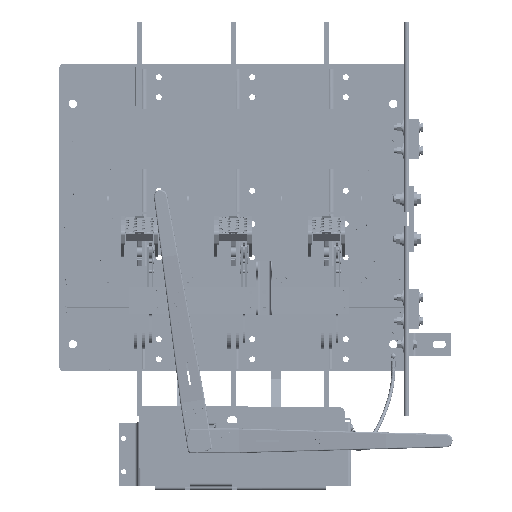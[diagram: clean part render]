
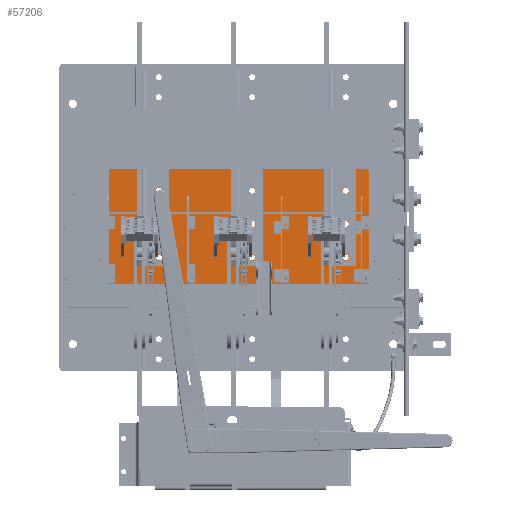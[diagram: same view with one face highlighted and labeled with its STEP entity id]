
A CAD part, top view. The second image highlights one B-rep face of the part: STEP entity #57206.
In plain terms, the highlighted planar face has unit normal (0, 0, 1).
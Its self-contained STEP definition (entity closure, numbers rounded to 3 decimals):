
#2608=FACE_BOUND('',#9327,.T.);
#2609=FACE_BOUND('',#9328,.T.);
#2610=FACE_BOUND('',#9329,.T.);
#2611=FACE_BOUND('',#9330,.T.);
#2612=FACE_BOUND('',#9331,.T.);
#2613=FACE_BOUND('',#9332,.T.);
#2614=FACE_BOUND('',#9333,.T.);
#2615=FACE_BOUND('',#9334,.T.);
#2616=FACE_BOUND('',#9335,.T.);
#2617=FACE_BOUND('',#9336,.T.);
#2618=FACE_BOUND('',#9337,.T.);
#2619=FACE_BOUND('',#9338,.T.);
#2620=FACE_BOUND('',#9339,.T.);
#2621=FACE_BOUND('',#9340,.T.);
#2622=FACE_BOUND('',#9341,.T.);
#2623=FACE_BOUND('',#9342,.T.);
#2624=FACE_BOUND('',#9343,.T.);
#3870=PLANE('',#62545);
#5945=FACE_OUTER_BOUND('',#9326,.T.);
#9326=EDGE_LOOP('',(#43474,#43475,#43476,#43477,#43478,#43479));
#9327=EDGE_LOOP('',(#43480));
#9328=EDGE_LOOP('',(#43481));
#9329=EDGE_LOOP('',(#43482));
#9330=EDGE_LOOP('',(#43483));
#9331=EDGE_LOOP('',(#43484));
#9332=EDGE_LOOP('',(#43485));
#9333=EDGE_LOOP('',(#43486));
#9334=EDGE_LOOP('',(#43487));
#9335=EDGE_LOOP('',(#43488));
#9336=EDGE_LOOP('',(#43489));
#9337=EDGE_LOOP('',(#43490));
#9338=EDGE_LOOP('',(#43491));
#9339=EDGE_LOOP('',(#43492));
#9340=EDGE_LOOP('',(#43493));
#9341=EDGE_LOOP('',(#43494));
#9342=EDGE_LOOP('',(#43495));
#9343=EDGE_LOOP('',(#43496));
#13234=CIRCLE('',#62328,0.07);
#13236=CIRCLE('',#62332,0.07);
#13238=CIRCLE('',#62336,0.07);
#13240=CIRCLE('',#62340,0.07);
#13242=CIRCLE('',#62344,0.07);
#13244=CIRCLE('',#62348,0.07);
#13246=CIRCLE('',#62352,0.07);
#13248=CIRCLE('',#62356,0.07);
#13252=CIRCLE('',#62364,0.219);
#13253=CIRCLE('',#62366,0.219);
#13254=CIRCLE('',#62368,0.219);
#13255=CIRCLE('',#62370,0.219);
#13256=CIRCLE('',#62372,0.219);
#13257=CIRCLE('',#62374,0.219);
#13258=CIRCLE('',#62376,0.219);
#13259=CIRCLE('',#62378,0.219);
#13260=CIRCLE('',#62380,0.219);
#13339=CIRCLE('',#62539,0.237);
#13340=CIRCLE('',#62544,0.237);
#16404=LINE('',#88486,#21229);
#16408=LINE('',#88495,#21233);
#16410=LINE('',#88499,#21235);
#16412=LINE('',#88503,#21237);
#21229=VECTOR('',#71780,0.394);
#21233=VECTOR('',#71790,0.394);
#21235=VECTOR('',#71794,0.394);
#21237=VECTOR('',#71798,0.394);
#26240=VERTEX_POINT('',#88027);
#26242=VERTEX_POINT('',#88034);
#26244=VERTEX_POINT('',#88041);
#26246=VERTEX_POINT('',#88048);
#26248=VERTEX_POINT('',#88055);
#26250=VERTEX_POINT('',#88062);
#26252=VERTEX_POINT('',#88069);
#26254=VERTEX_POINT('',#88076);
#26258=VERTEX_POINT('',#88090);
#26259=VERTEX_POINT('',#88094);
#26260=VERTEX_POINT('',#88098);
#26261=VERTEX_POINT('',#88102);
#26262=VERTEX_POINT('',#88106);
#26263=VERTEX_POINT('',#88110);
#26264=VERTEX_POINT('',#88114);
#26265=VERTEX_POINT('',#88118);
#26266=VERTEX_POINT('',#88122);
#26378=VERTEX_POINT('',#88484);
#26379=VERTEX_POINT('',#88485);
#26380=VERTEX_POINT('',#88490);
#26381=VERTEX_POINT('',#88494);
#26382=VERTEX_POINT('',#88498);
#26383=VERTEX_POINT('',#88502);
#32452=EDGE_CURVE('',#26240,#26240,#13234,.T.);
#32455=EDGE_CURVE('',#26242,#26242,#13236,.T.);
#32458=EDGE_CURVE('',#26244,#26244,#13238,.T.);
#32461=EDGE_CURVE('',#26246,#26246,#13240,.T.);
#32464=EDGE_CURVE('',#26248,#26248,#13242,.T.);
#32467=EDGE_CURVE('',#26250,#26250,#13244,.T.);
#32470=EDGE_CURVE('',#26252,#26252,#13246,.T.);
#32473=EDGE_CURVE('',#26254,#26254,#13248,.T.);
#32479=EDGE_CURVE('',#26258,#26258,#13252,.T.);
#32481=EDGE_CURVE('',#26259,#26259,#13253,.T.);
#32483=EDGE_CURVE('',#26260,#26260,#13254,.T.);
#32485=EDGE_CURVE('',#26261,#26261,#13255,.T.);
#32487=EDGE_CURVE('',#26262,#26262,#13256,.T.);
#32489=EDGE_CURVE('',#26263,#26263,#13257,.T.);
#32491=EDGE_CURVE('',#26264,#26264,#13258,.T.);
#32493=EDGE_CURVE('',#26265,#26265,#13259,.T.);
#32495=EDGE_CURVE('',#26266,#26266,#13260,.T.);
#32666=EDGE_CURVE('',#26378,#26379,#16404,.T.);
#32669=EDGE_CURVE('',#26379,#26380,#13339,.T.);
#32671=EDGE_CURVE('',#26380,#26381,#16408,.T.);
#32673=EDGE_CURVE('',#26381,#26382,#16410,.T.);
#32675=EDGE_CURVE('',#26382,#26383,#16412,.T.);
#32677=EDGE_CURVE('',#26383,#26378,#13340,.T.);
#43474=ORIENTED_EDGE('',*,*,#32666,.F.);
#43475=ORIENTED_EDGE('',*,*,#32677,.F.);
#43476=ORIENTED_EDGE('',*,*,#32675,.F.);
#43477=ORIENTED_EDGE('',*,*,#32673,.F.);
#43478=ORIENTED_EDGE('',*,*,#32671,.F.);
#43479=ORIENTED_EDGE('',*,*,#32669,.F.);
#43480=ORIENTED_EDGE('',*,*,#32452,.T.);
#43481=ORIENTED_EDGE('',*,*,#32455,.T.);
#43482=ORIENTED_EDGE('',*,*,#32458,.T.);
#43483=ORIENTED_EDGE('',*,*,#32461,.T.);
#43484=ORIENTED_EDGE('',*,*,#32464,.T.);
#43485=ORIENTED_EDGE('',*,*,#32467,.T.);
#43486=ORIENTED_EDGE('',*,*,#32470,.T.);
#43487=ORIENTED_EDGE('',*,*,#32473,.T.);
#43488=ORIENTED_EDGE('',*,*,#32479,.T.);
#43489=ORIENTED_EDGE('',*,*,#32481,.T.);
#43490=ORIENTED_EDGE('',*,*,#32483,.T.);
#43491=ORIENTED_EDGE('',*,*,#32485,.T.);
#43492=ORIENTED_EDGE('',*,*,#32487,.T.);
#43493=ORIENTED_EDGE('',*,*,#32489,.T.);
#43494=ORIENTED_EDGE('',*,*,#32491,.T.);
#43495=ORIENTED_EDGE('',*,*,#32493,.T.);
#43496=ORIENTED_EDGE('',*,*,#32495,.T.);
#57206=ADVANCED_FACE('',(#5945,#2608,#2609,#2610,#2611,#2612,#2613,#2614,
#2615,#2616,#2617,#2618,#2619,#2620,#2621,#2622,#2623,#2624),#3870,.T.);
#62328=AXIS2_PLACEMENT_3D('',#88028,#71251,#71252);
#62332=AXIS2_PLACEMENT_3D('',#88035,#71260,#71261);
#62336=AXIS2_PLACEMENT_3D('',#88042,#71269,#71270);
#62340=AXIS2_PLACEMENT_3D('',#88049,#71278,#71279);
#62344=AXIS2_PLACEMENT_3D('',#88056,#71287,#71288);
#62348=AXIS2_PLACEMENT_3D('',#88063,#71296,#71297);
#62352=AXIS2_PLACEMENT_3D('',#88070,#71305,#71306);
#62356=AXIS2_PLACEMENT_3D('',#88077,#71314,#71315);
#62364=AXIS2_PLACEMENT_3D('',#88091,#71332,#71333);
#62366=AXIS2_PLACEMENT_3D('',#88095,#71337,#71338);
#62368=AXIS2_PLACEMENT_3D('',#88099,#71342,#71343);
#62370=AXIS2_PLACEMENT_3D('',#88103,#71347,#71348);
#62372=AXIS2_PLACEMENT_3D('',#88107,#71352,#71353);
#62374=AXIS2_PLACEMENT_3D('',#88111,#71357,#71358);
#62376=AXIS2_PLACEMENT_3D('',#88115,#71362,#71363);
#62378=AXIS2_PLACEMENT_3D('',#88119,#71367,#71368);
#62380=AXIS2_PLACEMENT_3D('',#88123,#71372,#71373);
#62539=AXIS2_PLACEMENT_3D('',#88491,#71785,#71786);
#62544=AXIS2_PLACEMENT_3D('',#88506,#71802,#71803);
#62545=AXIS2_PLACEMENT_3D('',#88507,#71804,#71805);
#71251=DIRECTION('center_axis',(0.,0.,-1.));
#71252=DIRECTION('ref_axis',(-1.,0.,0.));
#71260=DIRECTION('center_axis',(0.,0.,-1.));
#71261=DIRECTION('ref_axis',(-1.,0.,0.));
#71269=DIRECTION('center_axis',(0.,0.,-1.));
#71270=DIRECTION('ref_axis',(-1.,0.,0.));
#71278=DIRECTION('center_axis',(0.,0.,-1.));
#71279=DIRECTION('ref_axis',(-1.,0.,0.));
#71287=DIRECTION('center_axis',(0.,0.,-1.));
#71288=DIRECTION('ref_axis',(-1.,0.,0.));
#71296=DIRECTION('center_axis',(0.,0.,-1.));
#71297=DIRECTION('ref_axis',(-1.,0.,0.));
#71305=DIRECTION('center_axis',(0.,0.,-1.));
#71306=DIRECTION('ref_axis',(-1.,0.,0.));
#71314=DIRECTION('center_axis',(0.,0.,-1.));
#71315=DIRECTION('ref_axis',(-1.,0.,0.));
#71332=DIRECTION('center_axis',(0.,0.,-1.));
#71333=DIRECTION('ref_axis',(-1.,0.,0.));
#71337=DIRECTION('center_axis',(0.,0.,-1.));
#71338=DIRECTION('ref_axis',(-1.,0.,0.));
#71342=DIRECTION('center_axis',(0.,0.,-1.));
#71343=DIRECTION('ref_axis',(-1.,0.,0.));
#71347=DIRECTION('center_axis',(0.,0.,-1.));
#71348=DIRECTION('ref_axis',(-1.,0.,0.));
#71352=DIRECTION('center_axis',(0.,0.,-1.));
#71353=DIRECTION('ref_axis',(-1.,0.,0.));
#71357=DIRECTION('center_axis',(0.,0.,-1.));
#71358=DIRECTION('ref_axis',(-1.,0.,0.));
#71362=DIRECTION('center_axis',(0.,0.,-1.));
#71363=DIRECTION('ref_axis',(-1.,0.,0.));
#71367=DIRECTION('center_axis',(0.,0.,-1.));
#71368=DIRECTION('ref_axis',(-1.,0.,0.));
#71372=DIRECTION('center_axis',(0.,0.,-1.));
#71373=DIRECTION('ref_axis',(-1.,0.,0.));
#71780=DIRECTION('',(1.,0.,0.));
#71785=DIRECTION('center_axis',(0.,0.,-1.));
#71786=DIRECTION('ref_axis',(-1.,0.,0.));
#71790=DIRECTION('',(0.,-1.,0.));
#71794=DIRECTION('',(-1.,0.,0.));
#71798=DIRECTION('',(0.,1.,0.));
#71802=DIRECTION('center_axis',(0.,0.,-1.));
#71803=DIRECTION('ref_axis',(0.,-1.,0.));
#71804=DIRECTION('center_axis',(0.,0.,1.));
#71805=DIRECTION('ref_axis',(1.,0.,0.));
#88027=CARTESIAN_POINT('',(38.758,-12.063,0.5));
#88028=CARTESIAN_POINT('Origin',(38.688,-12.063,0.5));
#88034=CARTESIAN_POINT('',(45.758,-12.063,0.5));
#88035=CARTESIAN_POINT('Origin',(45.688,-12.063,0.5));
#88041=CARTESIAN_POINT('',(51.758,-12.063,0.5));
#88042=CARTESIAN_POINT('Origin',(51.688,-12.063,0.5));
#88048=CARTESIAN_POINT('',(51.758,-16.063,0.5));
#88049=CARTESIAN_POINT('Origin',(51.688,-16.063,0.5));
#88055=CARTESIAN_POINT('',(45.758,-16.063,0.5));
#88056=CARTESIAN_POINT('Origin',(45.688,-16.063,0.5));
#88062=CARTESIAN_POINT('',(38.758,-16.063,0.5));
#88063=CARTESIAN_POINT('Origin',(38.688,-16.063,0.5));
#88069=CARTESIAN_POINT('',(32.758,-16.063,0.5));
#88070=CARTESIAN_POINT('Origin',(32.688,-16.063,0.5));
#88076=CARTESIAN_POINT('',(32.758,-12.063,0.5));
#88077=CARTESIAN_POINT('Origin',(32.688,-12.063,0.5));
#88090=CARTESIAN_POINT('',(50.406,-9.5,0.5));
#88091=CARTESIAN_POINT('Origin',(50.188,-9.5,0.5));
#88094=CARTESIAN_POINT('',(50.406,-12.,0.5));
#88095=CARTESIAN_POINT('Origin',(50.188,-12.,0.5));
#88098=CARTESIAN_POINT('',(50.406,-14.5,0.5));
#88099=CARTESIAN_POINT('Origin',(50.188,-14.5,0.5));
#88102=CARTESIAN_POINT('',(43.406,-9.5,0.5));
#88103=CARTESIAN_POINT('Origin',(43.188,-9.5,0.5));
#88106=CARTESIAN_POINT('',(43.406,-12.,0.5));
#88107=CARTESIAN_POINT('Origin',(43.188,-12.,0.5));
#88110=CARTESIAN_POINT('',(43.406,-14.5,0.5));
#88111=CARTESIAN_POINT('Origin',(43.188,-14.5,0.5));
#88114=CARTESIAN_POINT('',(36.406,-14.5,0.5));
#88115=CARTESIAN_POINT('Origin',(36.188,-14.5,0.5));
#88118=CARTESIAN_POINT('',(36.406,-12.,0.5));
#88119=CARTESIAN_POINT('Origin',(36.188,-12.,0.5));
#88122=CARTESIAN_POINT('',(36.406,-9.5,0.5));
#88123=CARTESIAN_POINT('Origin',(36.188,-9.5,0.5));
#88484=CARTESIAN_POINT('',(32.688,-7.888,0.5));
#88485=CARTESIAN_POINT('',(51.688,-7.888,0.5));
#88486=CARTESIAN_POINT('',(32.688,-7.888,0.5));
#88490=CARTESIAN_POINT('',(51.924,-8.125,0.5));
#88491=CARTESIAN_POINT('Origin',(51.688,-8.125,0.5));
#88494=CARTESIAN_POINT('',(51.924,-16.461,0.5));
#88495=CARTESIAN_POINT('',(51.924,-8.125,0.5));
#88498=CARTESIAN_POINT('',(32.451,-16.461,0.5));
#88499=CARTESIAN_POINT('',(51.938,-16.461,0.5));
#88502=CARTESIAN_POINT('',(32.451,-8.125,0.5));
#88503=CARTESIAN_POINT('',(32.451,-16.474,0.5));
#88506=CARTESIAN_POINT('Origin',(32.688,-8.125,0.5));
#88507=CARTESIAN_POINT('Origin',(42.188,-12.191,0.5));
